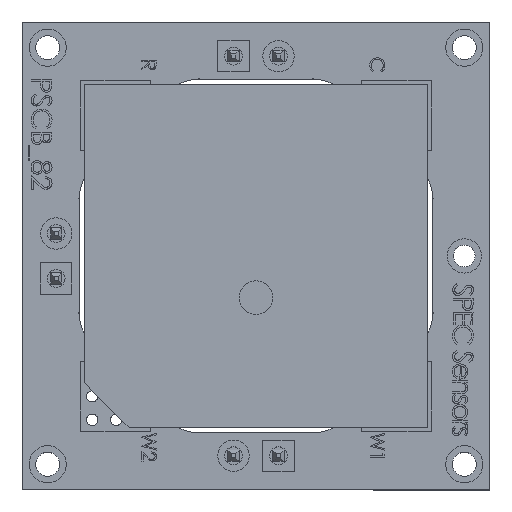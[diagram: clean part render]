
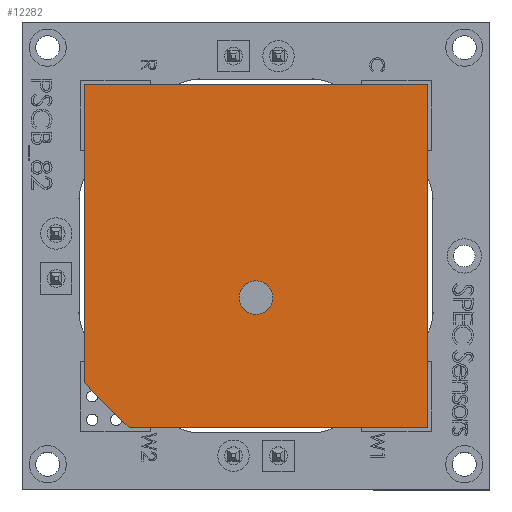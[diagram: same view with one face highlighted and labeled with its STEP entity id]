
A CAD part, top view. The second image highlights one B-rep face of the part: STEP entity #12282.
In plain terms, the highlighted planar face has unit normal (0, 0, 1).
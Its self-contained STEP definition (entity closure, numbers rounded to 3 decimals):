
#68 = EDGE_CURVE ( 'NONE', #22558, #14564, #23913, .T. ) ;
#1130 = FACE_OUTER_BOUND ( 'NONE', #34470, .T. ) ;
#1556 = FACE_BOUND ( 'NONE', #30462, .T. ) ;
#1788 = PLANE ( 'NONE',  #18418 ) ;
#2721 = CARTESIAN_POINT ( 'NONE',  ( -20.012, 22.389, 0.389 ) ) ;
#2889 = ORIENTED_EDGE ( 'NONE', *, *, #32430, .T. ) ;
#5266 = VECTOR ( 'NONE', #12164, 1000. ) ;
#6507 = VECTOR ( 'NONE', #33343, 1000. ) ;
#6691 = CARTESIAN_POINT ( 'NONE',  ( -20.012, 22.389, 0.389 ) ) ;
#6733 = EDGE_CURVE ( 'NONE', #17836, #22558, #28312, .T. ) ;
#7161 = LINE ( 'NONE', #7641, #13655 ) ;
#7641 = CARTESIAN_POINT ( 'NONE',  ( -20.012, 22.389, 0.389 ) ) ;
#8237 = DIRECTION ( 'NONE',  ( 0., -1., 0. ) ) ;
#8662 = CARTESIAN_POINT ( 'NONE',  ( -4.712, 22.389, 0.389 ) ) ;
#10115 = DIRECTION ( 'NONE',  ( 0.707, -0.707, 0. ) ) ;
#11478 = VERTEX_POINT ( 'NONE', #6691 ) ;
#12055 = EDGE_CURVE ( 'NONE', #27306, #27306, #25888, .T. ) ;
#12164 = DIRECTION ( 'NONE',  ( 1., 0., 0. ) ) ;
#12282 = ADVANCED_FACE ( 'NONE', ( #1556, #1130 ), #1788, .T. ) ;
#13008 = VECTOR ( 'NONE', #8237, 1000. ) ;
#13655 = VECTOR ( 'NONE', #29748, 1000. ) ;
#13906 = ORIENTED_EDGE ( 'NONE', *, *, #6733, .T. ) ;
#14134 = CARTESIAN_POINT ( 'NONE',  ( -4.712, 22.389, 0.389 ) ) ;
#14564 = VERTEX_POINT ( 'NONE', #14134 ) ;
#14985 = VERTEX_POINT ( 'NONE', #35411 ) ;
#15838 = EDGE_CURVE ( 'NONE', #14564, #11478, #7161, .T. ) ;
#17233 = DIRECTION ( 'NONE',  ( 0., 0., 1. ) ) ;
#17599 = LINE ( 'NONE', #29262, #21084 ) ;
#17836 = VERTEX_POINT ( 'NONE', #28876 ) ;
#18418 = AXIS2_PLACEMENT_3D ( 'NONE', #32205, #24136, #21242 ) ;
#19045 = LINE ( 'NONE', #2721, #13008 ) ;
#19786 = AXIS2_PLACEMENT_3D ( 'NONE', #28393, #17233, #34240 ) ;
#21084 = VECTOR ( 'NONE', #10115, 1000. ) ;
#21242 = DIRECTION ( 'NONE',  ( 1., 0., 0. ) ) ;
#22558 = VERTEX_POINT ( 'NONE', #30577 ) ;
#23300 = EDGE_CURVE ( 'NONE', #14985, #17836, #17599, .T. ) ;
#23385 = CARTESIAN_POINT ( 'NONE',  ( -11.612, 12.884, 0.389 ) ) ;
#23913 = LINE ( 'NONE', #8662, #6507 ) ;
#24136 = DIRECTION ( 'NONE',  ( 0., 0., 1. ) ) ;
#25768 = CARTESIAN_POINT ( 'NONE',  ( -18.012, 7.089, 0.389 ) ) ;
#25794 = ORIENTED_EDGE ( 'NONE', *, *, #68, .T. ) ;
#25888 = CIRCLE ( 'NONE', #19786, 0.75 ) ;
#27306 = VERTEX_POINT ( 'NONE', #23385 ) ;
#28183 = ORIENTED_EDGE ( 'NONE', *, *, #12055, .F. ) ;
#28312 = LINE ( 'NONE', #25768, #5266 ) ;
#28393 = CARTESIAN_POINT ( 'NONE',  ( -12.362, 12.884, 0.389 ) ) ;
#28876 = CARTESIAN_POINT ( 'NONE',  ( -18.012, 7.089, 0.389 ) ) ;
#29262 = CARTESIAN_POINT ( 'NONE',  ( -20.012, 9.089, 0.389 ) ) ;
#29748 = DIRECTION ( 'NONE',  ( -1., 0., 0. ) ) ;
#30462 = EDGE_LOOP ( 'NONE', ( #28183 ) ) ;
#30577 = CARTESIAN_POINT ( 'NONE',  ( -4.712, 7.089, 0.389 ) ) ;
#31880 = ORIENTED_EDGE ( 'NONE', *, *, #23300, .T. ) ;
#32205 = CARTESIAN_POINT ( 'NONE',  ( 0., 0., 0.389 ) ) ;
#32430 = EDGE_CURVE ( 'NONE', #11478, #14985, #19045, .T. ) ;
#33035 = ORIENTED_EDGE ( 'NONE', *, *, #15838, .T. ) ;
#33343 = DIRECTION ( 'NONE',  ( 0., 1., 0. ) ) ;
#34240 = DIRECTION ( 'NONE',  ( 1., 0., 0. ) ) ;
#34470 = EDGE_LOOP ( 'NONE', ( #25794, #33035, #2889, #31880, #13906 ) ) ;
#35411 = CARTESIAN_POINT ( 'NONE',  ( -20.012, 9.089, 0.389 ) ) ;
